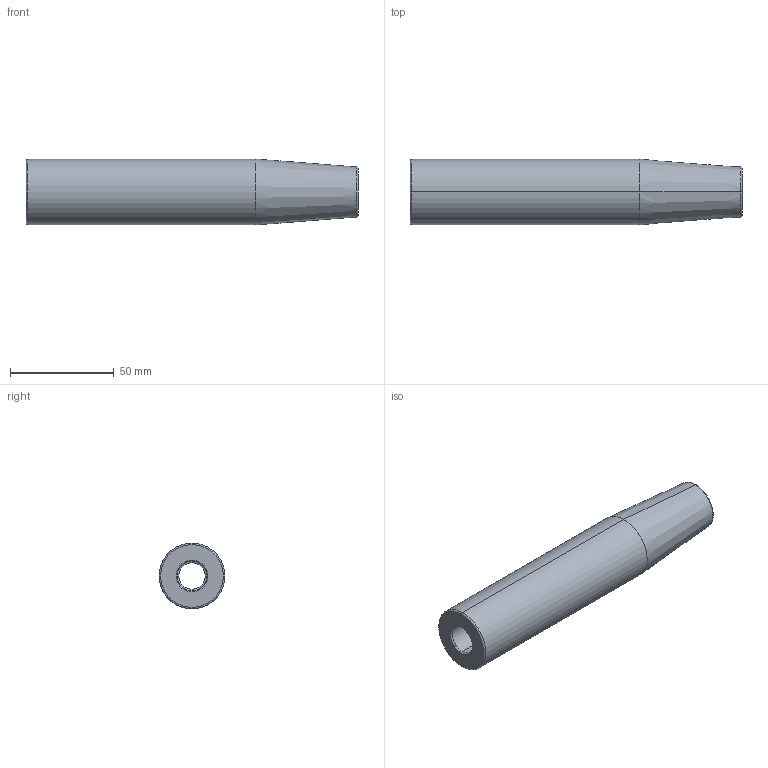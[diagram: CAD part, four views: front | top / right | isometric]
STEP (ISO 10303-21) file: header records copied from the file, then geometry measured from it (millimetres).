
FILE_DESCRIPTION (( 'STEP AP214' ), '1' );
FILE_NAME ('SSL4-2008.step', '2013-03-18T21:09:28', ( 'brad' ), ( '' ), 'SwSTEP 2.0', 'SolidWorks 2013', '' );
FILE_SCHEMA (( 'AUTOMOTIVE_DESIGN' ));
Length unit declared in the file: inch
Products named in the file (1): SSL4-2008
Bounding box: 160 x 31.75 x 31.75 mm (x, y, z)
Volume: 93551.1 mm3; surface area: 23255.8 mm2
Topology: 1 solids, 1 shells, 22 faces, 44 edges, 24 vertices
Faces by surface type: cone 10, cylinder 6, torus 4, plane 2
Entity records: 612 total; most frequent: DIRECTION 118, CARTESIAN_POINT 91, ORIENTED_EDGE 88, AXIS2_PLACEMENT_3D 51, EDGE_CURVE 44, CIRCLE 28, EDGE_LOOP 24, VERTEX_POINT 24
